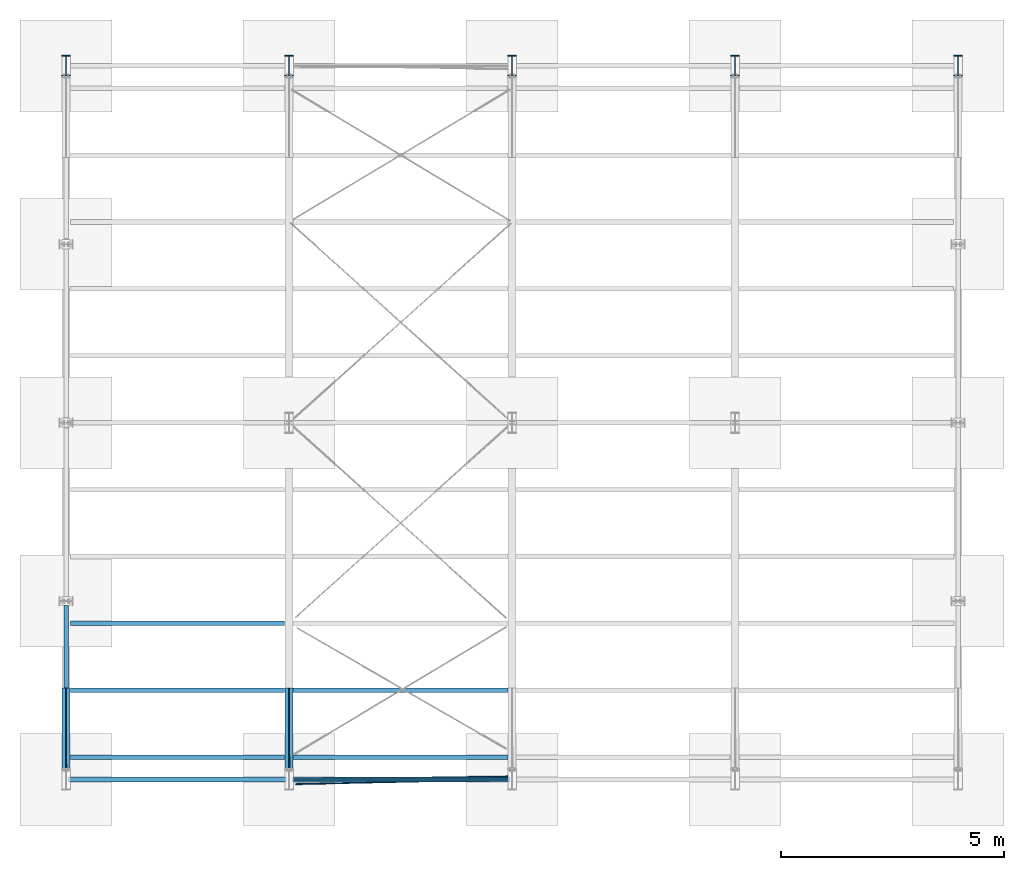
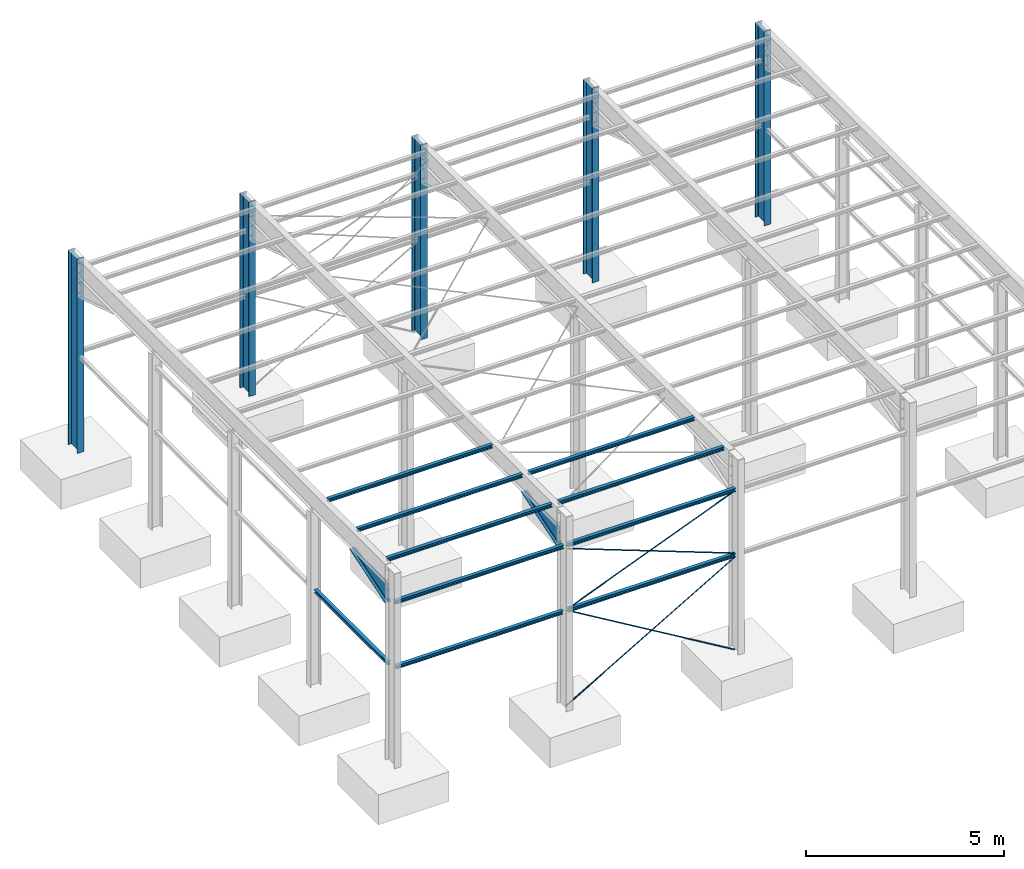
# Not in any storey, part 2 of 51: 10 beams, 6 members, 5 columns, 42 openings.
"""IFC4 model written with IfcOpenShell, lengths in feet."""

import ifcopenshell
import ifcopenshell.guid

model = None  # the IFC model being written
_history = None  # IfcOwnerHistory: only IFC2X3 demands one
_inside = {}  # id of a spatial element -> (the spatial element, [elements in it])
_under = {}  # id of a project, library or spatial element -> (it, [spatial elements below it])
_declared = {}  # id of a project -> (the project, [libraries it declares])
_typed = {}  # id of a type object -> (the type object, [elements of that type])
_made_of = {}  # id of a material, layer set ... -> (it, [elements and type objects made of it])


def new_model(schema):
    """Start an empty IFC model of exactly this schema.

    Asked for "IFC4X3", IfcOpenShell would pick the latest addendum, in which some entities
    have other attributes; the version numbers below select the first issue.
    IFC2X3 requires an IfcOwnerHistory on every rooted entity: one is made here for all.
    """
    global model, _history
    if schema == "IFC4X3":
        model = ifcopenshell.file(schema_version=(4, 3, 0, 0))
    else:
        model = ifcopenshell.file(schema=schema)
    _inside.clear()
    _under.clear()
    _declared.clear()
    _typed.clear()
    _made_of.clear()
    _history = None
    if model.schema == "IFC2X3":
        org = make("IfcOrganization", Name="unknown")
        user = make(
            "IfcPersonAndOrganization",
            ThePerson=make("IfcPerson", FamilyName="unknown"),
            TheOrganization=org,
        )
        app = make(
            "IfcApplication",
            ApplicationDeveloper=org,
            Version="unknown",
            ApplicationFullName="unknown",
            ApplicationIdentifier="unknown",
        )
        _history = make(
            "IfcOwnerHistory",
            OwningUser=user,
            OwningApplication=app,
            ChangeAction="ADDED",
            CreationDate=0,
        )
    return model


def make(cls, **values):
    """One entity of the class cls with the attributes given. An attribute that is None is left unset."""
    return model.create_entity(
        cls, **{name: value for name, value in values.items() if value is not None}
    )


def entity(cls, *values):
    """Any entity or typed value of the class cls, its attributes in the order of the schema. None: left unset."""
    e = model.create_entity(cls)
    for i, value in enumerate(values):
        if value is not None:
            e[i] = value
    return e


def rooted(cls, **values):
    """An entity with a GlobalId (a new one), such as an element, a storey or a relation."""
    return make(cls, GlobalId=ifcopenshell.guid.new(), OwnerHistory=_history, **values)


def si_unit(unit_type, name, prefix=None):
    """IfcSIUnit, for example si_unit("LENGTHUNIT", "METRE", prefix="MILLI")."""
    return make("IfcSIUnit", UnitType=unit_type, Prefix=prefix, Name=name)


def converted_unit(unit_type, name, factor, base, dimensions=None, offset=None):
    """IfcConversionBasedUnit, such as the inch: factor (a typed value) times the base unit."""
    return make(
        "IfcConversionBasedUnit"
        if offset is None
        else "IfcConversionBasedUnitWithOffset",
        ConversionOffset=offset,
        Dimensions=None
        if dimensions is None
        else entity("IfcDimensionalExponents", *dimensions),
        UnitType=unit_type,
        Name=name,
        ConversionFactor=make(
            "IfcMeasureWithUnit", ValueComponent=factor, UnitComponent=base
        ),
    )


def assignment(units):
    """IfcUnitAssignment: the units of a project."""
    return None if units is None else make("IfcUnitAssignment", Units=units)


def point(xyz):
    """IfcCartesianPoint."""
    return None if xyz is None else make("IfcCartesianPoint", Coordinates=xyz)


def direction(xyz):
    """IfcDirection."""
    return None if xyz is None else make("IfcDirection", DirectionRatios=xyz)


def frame(location, z_axis=None, x_axis=None):
    """IfcAxis2Placement3D, a coordinate frame: its origin and axes. An axis left out is left unset."""
    return make(
        "IfcAxis2Placement3D",
        Location=point(location),
        Axis=direction(z_axis),
        RefDirection=direction(x_axis),
    )


def frame_2d(location, x_axis=None):
    """IfcAxis2Placement2D, a coordinate frame in the plane: its origin and x axis."""
    return make(
        "IfcAxis2Placement2D", Location=point(location), RefDirection=direction(x_axis)
    )


def origin():
    """The frame at (0, 0, 0) with its axes left unset."""
    return frame((0.0, 0.0, 0.0))


def origin_2d():
    """The frame at (0, 0) in the plane with its x axis left unset."""
    return frame_2d((0.0, 0.0))


def origin_2d_with_axis():
    """The frame at (0, 0) in the plane with the x axis (1, 0) written out."""
    return frame_2d((0.0, 0.0), x_axis=(1.0, 0.0))


def place(relative_to, where):
    """IfcLocalPlacement: puts the frame where relative to a parent placement (None: the world)."""
    return make(
        "IfcLocalPlacement", PlacementRelTo=relative_to, RelativePlacement=where
    )


def context(
    kind, dimensions, precision=None, world=None, true_north=None, identifier=None
):
    """IfcGeometricRepresentationContext, for example the 3D "Model" context."""
    return make(
        "IfcGeometricRepresentationContext",
        ContextIdentifier=identifier,
        ContextType=kind,
        CoordinateSpaceDimension=dimensions,
        Precision=precision,
        WorldCoordinateSystem=world,
        TrueNorth=true_north,
    )


def project(units=None, contexts=None):
    """IfcProject with its units and contexts."""
    return rooted(
        "IfcProject",
        Name="project",
        RepresentationContexts=contexts,
        UnitsInContext=assignment(units),
    )


def spatial(cls, under=None, at=None, **own):
    """A site, building, storey or space (cls), placed at a placement, below another one or the project."""
    s = rooted(cls, ObjectPlacement=at, **own)
    if under is not None:
        _under.setdefault(under.id(), (under, []))[1].append(s)
    return s


def polyline(points):
    """IfcPolyline through the points."""
    return make("IfcPolyline", Points=[point(p) for p in points])


def profile(cls, at=None, kind="AREA", **sizes):
    """A parametric profile (cls). Its sizes go by their IFC names, for example OverallWidth=200.0."""
    return make(cls, ProfileType=kind, Position=at, **sizes)


def circle(**sizes):
    """IfcCircleProfileDef."""
    return profile("IfcCircleProfileDef", **sizes)


def i_section(**sizes):
    """IfcIShapeProfileDef."""
    return profile("IfcIShapeProfileDef", **sizes)


def outline(outer, holes=None, kind="AREA"):
    """IfcArbitraryClosedProfileDef: a profile drawn as a closed curve; with holes, ...WithVoids."""
    if holes is None:
        return make("IfcArbitraryClosedProfileDef", ProfileType=kind, OuterCurve=outer)
    return make(
        "IfcArbitraryProfileDefWithVoids",
        ProfileType=kind,
        OuterCurve=outer,
        InnerCurves=holes,
    )


def extrude(swept, where, along, depth):
    """IfcExtrudedAreaSolid: the profile swept, set in the frame where, extruded along a direction by depth."""
    return make(
        "IfcExtrudedAreaSolid",
        SweptArea=swept,
        Position=where,
        ExtrudedDirection=direction(along),
        Depth=depth,
    )


def clip(a, b, op="DIFFERENCE"):
    """IfcBooleanClippingResult: the solid a cut by the half space b."""
    return make(
        "IfcBooleanClippingResult", Operator=op, FirstOperand=a, SecondOperand=b
    )


def halfspace(plane, agree):
    """IfcHalfSpaceSolid: all space on one side of the plane z = 0 of the frame plane."""
    return make(
        "IfcHalfSpaceSolid",
        BaseSurface=make("IfcPlane", Position=plane),
        AgreementFlag=agree,
    )


def shape(context_of_items, identifier, shape_type, items):
    """IfcShapeRepresentation: the items that make up one representation, for example the "Body"."""
    return make(
        "IfcShapeRepresentation",
        ContextOfItems=context_of_items,
        RepresentationIdentifier=identifier,
        RepresentationType=shape_type,
        Items=items,
    )


def material(Name=None, Category=None):
    """IfcMaterial."""
    return make("IfcMaterial", Name=Name, Category=Category)


def made_of(thing, what):
    """Note that an element or type object is made of a material, layer set ...; save() writes the relation."""
    if what is not None:
        _made_of.setdefault(what.id(), (what, []))[1].append(thing)
    return thing


def type_object(cls, material=None, **own):
    """A type object (cls), such as IfcWallType, which elements share."""
    return made_of(rooted(cls, **own), material)


def element(
    cls,
    number,
    at=None,
    inside=None,
    cuts=None,
    type_object=None,
    material=None,
    context=None,
    identifier="Body",
    shape_type=None,
    held_by="IfcProductDefinitionShape",
    body=None,
    shapes=None,
    **own,
):
    """One element of the class cls, such as IfcWall. Its Tag is "e" and its number.

    at: its placement. inside: the storey or other place that contains it. cuts: it is an
    opening in that element (IfcRelVoidsElement). A single representation is given by context,
    identifier, shape_type and body (its items); several are given by shapes. held_by: the class
    of the entity that holds the representations. save() writes the other relations.
    """
    e = rooted(cls, Tag="e%d" % number, ObjectPlacement=at, **own)
    if body is not None:
        shapes = [shape(context, identifier, shape_type, body)]
    if shapes is not None:
        e.Representation = make(held_by, Representations=shapes)
    if inside is not None:
        _inside.setdefault(inside.id(), (inside, []))[1].append(e)
    if cuts is not None:
        rooted(
            "IfcRelVoidsElement", RelatingBuildingElement=cuts, RelatedOpeningElement=e
        )
    if type_object is not None:
        _typed.setdefault(type_object.id(), (type_object, []))[1].append(e)
    return made_of(e, material)


def aggregate(whole, parts):
    """IfcRelAggregates: a whole, such as a stair, and the parts it consists of."""
    return rooted("IfcRelAggregates", RelatingObject=whole, RelatedObjects=parts)


def save(model, path):
    """Write the relations noted so far, then the file.

    IfcRelAggregates (storeys below a building ...), IfcRelContainedInSpatialStructure (elements
    in a storey), IfcRelDefinesByType, IfcRelAssociatesMaterial and IfcRelDeclares: one each for
    every whole, place, type object, material and project.
    """
    for whole, parts in _under.values():
        aggregate(whole, parts)
    for where, things in _inside.values():
        rooted(
            "IfcRelContainedInSpatialStructure",
            RelatedElements=things,
            RelatingStructure=where,
        )
    for kind, things in _typed.values():
        rooted("IfcRelDefinesByType", RelatedObjects=things, RelatingType=kind)
    for what, things in _made_of.values():
        rooted("IfcRelAssociatesMaterial", RelatedObjects=things, RelatingMaterial=what)
    for by, libraries in _declared.values():
        rooted("IfcRelDeclares", RelatingContext=by, RelatedDefinitions=libraries)
    model.write(path)


model = new_model("IFC4")

# Units and contexts
model_context = context("Model", 3, precision=0.0001, world=origin(), true_north=direction((6.123233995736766e-17, 1.0)))
ifc_project = project(units=[converted_unit("LENGTHUNIT", "FOOT", entity("IfcLengthMeasure", 0.3048), si_unit("LENGTHUNIT", "METRE"), dimensions=[1, 0, 0, 0, 0, 0, 0]), converted_unit("AREAUNIT", "SQUARE INCH", entity("IfcAreaMeasure", 0.0006451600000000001), si_unit("AREAUNIT", "SQUARE_METRE"), dimensions=[2, 0, 0, 0, 0, 0, 0]), converted_unit("PLANEANGLEUNIT", "DEGREE", entity("IfcPlaneAngleMeasure", 0.017453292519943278), si_unit("PLANEANGLEUNIT", "RADIAN"), dimensions=[0, 0, 0, 0, 0, 0, 0]), si_unit("VOLUMEUNIT", "CUBIC_METRE")], contexts=[model_context])

# Site
site_placement = place(None, origin())
site = spatial("IfcSite", under=ifc_project, at=site_placement, Name="Default", CompositionType="ELEMENT")

# Column, openings
ifc_material_1 = material(Name="Steel ASTM A992", Category="Metal")
column_type = type_object("IfcColumnType", Name="W Shapes-Column:W18X65", PredefinedType="COLUMN", material=ifc_material_1)
column_1_placement = place(site_placement, frame((27.657936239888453, 57.94845552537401, 21.281038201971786), z_axis=(0.0, 0.0, 1.0), x_axis=(1.0, 0.0, 0.0)))
column_1 = element("IfcColumn", 1, at=column_1_placement, inside=site, type_object=column_type, material=ifc_material_1, Name="W Shapes-Column:W18X65", ObjectType="W18X65", context=model_context, shape_type="Clipping", body=[
    clip(extrude(i_section(OverallWidth=0.6325, OverallDepth=1.5333333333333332, WebThickness=0.0375, FlangeThickness=0.0625, FilletRadius=0.03333333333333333, at=origin_2d()), origin(), (0.0, 0.0, -1.0), 21.281038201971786), halfspace(frame((-27.657936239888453, -57.94845552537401, -1.6452147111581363), z_axis=(0.0, 0.0, -1.0), x_axis=(-1.0, 0.0, 0.0)), True)),
])
opening_1_placement = place(column_1_placement, frame((0.14583333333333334, -0.7025262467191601, -2.104529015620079), z_axis=(0.0, -1.0, 0.0), x_axis=(1.0, 0.0, 0.0)))
element("IfcOpeningElement", 2, at=opening_1_placement, cuts=column_1, ObjectType="Opening", context=model_context, shape_type="SweptSolid", body=[
    extrude(circle(Radius=0.03385744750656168, at=origin_2d_with_axis()), origin(), (0.0, 0.0, 1.0), 0.06578083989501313),
])
opening_2_placement = place(column_1_placement, frame((-0.14583333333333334, -0.7025262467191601, -4.073032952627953), z_axis=(0.0, -1.0, 0.0), x_axis=(1.0, 0.0, 0.0)))
element("IfcOpeningElement", 3, at=opening_2_placement, cuts=column_1, ObjectType="Opening", context=model_context, shape_type="SweptSolid", body=[
    extrude(circle(Radius=0.03385744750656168, at=origin_2d_with_axis()), origin(), (0.0, 0.0, 1.0), 0.06578083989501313),
])
opening_3_placement = place(column_1_placement, frame((-0.14583333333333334, -0.7025262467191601, -5.05728492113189), z_axis=(0.0, -1.0, 0.0), x_axis=(1.0, 0.0, 0.0)))
element("IfcOpeningElement", 4, at=opening_3_placement, cuts=column_1, ObjectType="Opening", context=model_context, shape_type="SweptSolid", body=[
    extrude(circle(Radius=0.03385744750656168, at=origin_2d_with_axis()), origin(), (0.0, 0.0, 1.0), 0.06578083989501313),
])
opening_4_placement = place(column_1_placement, frame((0.14583333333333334, -0.7025262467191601, -3.0887809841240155), z_axis=(0.0, -1.0, 0.0), x_axis=(1.0, 0.0, 0.0)))
element("IfcOpeningElement", 5, at=opening_4_placement, cuts=column_1, ObjectType="Opening", context=model_context, shape_type="SweptSolid", body=[
    extrude(circle(Radius=0.03385744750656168, at=origin_2d_with_axis()), origin(), (0.0, 0.0, 1.0), 0.06578083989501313),
])
opening_5_placement = place(column_1_placement, frame((0.14583333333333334, -0.7025262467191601, -5.05728492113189), z_axis=(0.0, -1.0, 0.0), x_axis=(1.0, 0.0, 0.0)))
element("IfcOpeningElement", 6, at=opening_5_placement, cuts=column_1, ObjectType="Opening", context=model_context, shape_type="SweptSolid", body=[
    extrude(circle(Radius=0.03385744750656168, at=origin_2d_with_axis()), origin(), (0.0, 0.0, 1.0), 0.06578083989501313),
])
opening_6_placement = place(column_1_placement, frame((-0.14583333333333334, -0.7025262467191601, -2.104529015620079), z_axis=(0.0, -1.0, 0.0), x_axis=(1.0, 0.0, 0.0)))
element("IfcOpeningElement", 7, at=opening_6_placement, cuts=column_1, ObjectType="Opening", context=model_context, shape_type="SweptSolid", body=[
    extrude(circle(Radius=0.03385744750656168, at=origin_2d_with_axis()), origin(), (0.0, 0.0, 1.0), 0.06578083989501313),
])
opening_7_placement = place(column_1_placement, frame((-0.14583333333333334, -0.7025262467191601, -3.0887809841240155), z_axis=(0.0, -1.0, 0.0), x_axis=(1.0, 0.0, 0.0)))
element("IfcOpeningElement", 8, at=opening_7_placement, cuts=column_1, ObjectType="Opening", context=model_context, shape_type="SweptSolid", body=[
    extrude(circle(Radius=0.03385744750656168, at=origin_2d_with_axis()), origin(), (0.0, 0.0, 1.0), 0.06578083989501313),
])
opening_8_placement = place(column_1_placement, frame((0.14583333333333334, -0.7025262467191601, -4.073032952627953), z_axis=(0.0, -1.0, 0.0), x_axis=(1.0, 0.0, 0.0)))
element("IfcOpeningElement", 9, at=opening_8_placement, cuts=column_1, ObjectType="Opening", context=model_context, shape_type="SweptSolid", body=[
    extrude(circle(Radius=0.03385744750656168, at=origin_2d_with_axis()), origin(), (0.0, 0.0, 1.0), 0.06578083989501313),
])

column_2_placement = place(site_placement, frame((44.06213571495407, 57.94845552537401, 21.281038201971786), z_axis=(0.0, 0.0, 1.0), x_axis=(1.0, 0.0, 0.0)))
column_2 = element("IfcColumn", 10, at=column_2_placement, inside=site, type_object=column_type, material=ifc_material_1, Name="W Shapes-Column:W18X65", ObjectType="W18X65", context=model_context, shape_type="Clipping", body=[
    clip(extrude(i_section(OverallWidth=0.6325, OverallDepth=1.5333333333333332, WebThickness=0.0375, FlangeThickness=0.0625, FilletRadius=0.03333333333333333, at=origin_2d()), origin(), (0.0, 0.0, -1.0), 21.281038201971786), halfspace(frame((-44.06213571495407, -57.94845552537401, -1.6452147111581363), z_axis=(0.0, 0.0, -1.0), x_axis=(-1.0, 0.0, 0.0)), True)),
])
opening_9_placement = place(column_2_placement, frame((-0.14583333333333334, -0.7025262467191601, -5.05728492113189), z_axis=(0.0, -1.0, 0.0), x_axis=(1.0, 0.0, 0.0)))
element("IfcOpeningElement", 11, at=opening_9_placement, cuts=column_2, ObjectType="Opening", context=model_context, shape_type="SweptSolid", body=[
    extrude(circle(Radius=0.03385744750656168, at=origin_2d_with_axis()), origin(), (0.0, 0.0, 1.0), 0.06578083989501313),
])
opening_10_placement = place(column_2_placement, frame((0.14583333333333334, -0.7025262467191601, -5.05728492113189), z_axis=(0.0, -1.0, 0.0), x_axis=(1.0, 0.0, 0.0)))
element("IfcOpeningElement", 12, at=opening_10_placement, cuts=column_2, ObjectType="Opening", context=model_context, shape_type="SweptSolid", body=[
    extrude(circle(Radius=0.03385744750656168, at=origin_2d_with_axis()), origin(), (0.0, 0.0, 1.0), 0.06578083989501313),
])
opening_11_placement = place(column_2_placement, frame((0.14583333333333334, -0.7025262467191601, -4.073032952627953), z_axis=(0.0, -1.0, 0.0), x_axis=(1.0, 0.0, 0.0)))
element("IfcOpeningElement", 13, at=opening_11_placement, cuts=column_2, ObjectType="Opening", context=model_context, shape_type="SweptSolid", body=[
    extrude(circle(Radius=0.03385744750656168, at=origin_2d_with_axis()), origin(), (0.0, 0.0, 1.0), 0.06578083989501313),
])
opening_12_placement = place(column_2_placement, frame((0.14583333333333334, -0.7025262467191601, -2.104529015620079), z_axis=(0.0, -1.0, 0.0), x_axis=(1.0, 0.0, 0.0)))
element("IfcOpeningElement", 14, at=opening_12_placement, cuts=column_2, ObjectType="Opening", context=model_context, shape_type="SweptSolid", body=[
    extrude(circle(Radius=0.03385744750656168, at=origin_2d_with_axis()), origin(), (0.0, 0.0, 1.0), 0.06578083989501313),
])
opening_13_placement = place(column_2_placement, frame((0.14583333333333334, -0.7025262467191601, -3.0887809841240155), z_axis=(0.0, -1.0, 0.0), x_axis=(1.0, 0.0, 0.0)))
element("IfcOpeningElement", 15, at=opening_13_placement, cuts=column_2, ObjectType="Opening", context=model_context, shape_type="SweptSolid", body=[
    extrude(circle(Radius=0.03385744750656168, at=origin_2d_with_axis()), origin(), (0.0, 0.0, 1.0), 0.06578083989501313),
])
opening_14_placement = place(column_2_placement, frame((-0.14583333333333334, -0.7025262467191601, -2.104529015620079), z_axis=(0.0, -1.0, 0.0), x_axis=(1.0, 0.0, 0.0)))
element("IfcOpeningElement", 16, at=opening_14_placement, cuts=column_2, ObjectType="Opening", context=model_context, shape_type="SweptSolid", body=[
    extrude(circle(Radius=0.03385744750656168, at=origin_2d_with_axis()), origin(), (0.0, 0.0, 1.0), 0.06578083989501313),
])
opening_15_placement = place(column_2_placement, frame((-0.14583333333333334, -0.7025262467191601, -4.073032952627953), z_axis=(0.0, -1.0, 0.0), x_axis=(1.0, 0.0, 0.0)))
element("IfcOpeningElement", 17, at=opening_15_placement, cuts=column_2, ObjectType="Opening", context=model_context, shape_type="SweptSolid", body=[
    extrude(circle(Radius=0.03385744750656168, at=origin_2d_with_axis()), origin(), (0.0, 0.0, 1.0), 0.06578083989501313),
])
opening_16_placement = place(column_2_placement, frame((-0.14583333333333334, -0.7025262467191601, -3.0887809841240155), z_axis=(0.0, -1.0, 0.0), x_axis=(1.0, 0.0, 0.0)))
element("IfcOpeningElement", 18, at=opening_16_placement, cuts=column_2, ObjectType="Opening", context=model_context, shape_type="SweptSolid", body=[
    extrude(circle(Radius=0.03385744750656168, at=origin_2d_with_axis()), origin(), (0.0, 0.0, 1.0), 0.06578083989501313),
])

column_3_placement = place(site_placement, frame((60.46633519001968, 57.94845552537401, 21.281038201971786), z_axis=(0.0, 0.0, 1.0), x_axis=(1.0, 0.0, 0.0)))
column_3 = element("IfcColumn", 19, at=column_3_placement, inside=site, type_object=column_type, material=ifc_material_1, Name="W Shapes-Column:W18X65", ObjectType="W18X65", context=model_context, shape_type="Clipping", body=[
    clip(extrude(i_section(OverallWidth=0.6325, OverallDepth=1.5333333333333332, WebThickness=0.0375, FlangeThickness=0.0625, FilletRadius=0.03333333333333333, at=origin_2d()), origin(), (0.0, 0.0, -1.0), 21.281038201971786), halfspace(frame((-60.46633519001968, -57.94845552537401, -1.6452147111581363), z_axis=(0.0, 0.0, -1.0), x_axis=(-1.0, 0.0, 0.0)), True)),
])
opening_17_placement = place(column_3_placement, frame((-0.14583333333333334, -0.7025262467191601, -2.104529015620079), z_axis=(0.0, -1.0, 0.0), x_axis=(1.0, 0.0, 0.0)))
element("IfcOpeningElement", 20, at=opening_17_placement, cuts=column_3, ObjectType="Opening", context=model_context, shape_type="SweptSolid", body=[
    extrude(circle(Radius=0.03385744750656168, at=origin_2d_with_axis()), origin(), (0.0, 0.0, 1.0), 0.06578083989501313),
])
opening_18_placement = place(column_3_placement, frame((0.14583333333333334, -0.7025262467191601, -3.0887809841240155), z_axis=(0.0, -1.0, 0.0), x_axis=(1.0, 0.0, 0.0)))
element("IfcOpeningElement", 21, at=opening_18_placement, cuts=column_3, ObjectType="Opening", context=model_context, shape_type="SweptSolid", body=[
    extrude(circle(Radius=0.03385744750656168, at=origin_2d_with_axis()), origin(), (0.0, 0.0, 1.0), 0.06578083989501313),
])
opening_19_placement = place(column_3_placement, frame((-0.14583333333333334, -0.7025262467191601, -3.0887809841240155), z_axis=(0.0, -1.0, 0.0), x_axis=(1.0, 0.0, 0.0)))
element("IfcOpeningElement", 22, at=opening_19_placement, cuts=column_3, ObjectType="Opening", context=model_context, shape_type="SweptSolid", body=[
    extrude(circle(Radius=0.03385744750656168, at=origin_2d_with_axis()), origin(), (0.0, 0.0, 1.0), 0.06578083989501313),
])
opening_20_placement = place(column_3_placement, frame((0.14583333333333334, -0.7025262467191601, -4.073032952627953), z_axis=(0.0, -1.0, 0.0), x_axis=(1.0, 0.0, 0.0)))
element("IfcOpeningElement", 23, at=opening_20_placement, cuts=column_3, ObjectType="Opening", context=model_context, shape_type="SweptSolid", body=[
    extrude(circle(Radius=0.03385744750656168, at=origin_2d_with_axis()), origin(), (0.0, 0.0, 1.0), 0.06578083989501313),
])
opening_21_placement = place(column_3_placement, frame((0.14583333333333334, -0.7025262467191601, -5.05728492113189), z_axis=(0.0, -1.0, 0.0), x_axis=(1.0, 0.0, 0.0)))
element("IfcOpeningElement", 24, at=opening_21_placement, cuts=column_3, ObjectType="Opening", context=model_context, shape_type="SweptSolid", body=[
    extrude(circle(Radius=0.03385744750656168, at=origin_2d_with_axis()), origin(), (0.0, 0.0, 1.0), 0.06578083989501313),
])
opening_22_placement = place(column_3_placement, frame((-0.14583333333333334, -0.7025262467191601, -4.073032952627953), z_axis=(0.0, -1.0, 0.0), x_axis=(1.0, 0.0, 0.0)))
element("IfcOpeningElement", 25, at=opening_22_placement, cuts=column_3, ObjectType="Opening", context=model_context, shape_type="SweptSolid", body=[
    extrude(circle(Radius=0.03385744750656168, at=origin_2d_with_axis()), origin(), (0.0, 0.0, 1.0), 0.06578083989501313),
])
opening_23_placement = place(column_3_placement, frame((-0.14583333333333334, -0.7025262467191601, -5.05728492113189), z_axis=(0.0, -1.0, 0.0), x_axis=(1.0, 0.0, 0.0)))
element("IfcOpeningElement", 26, at=opening_23_placement, cuts=column_3, ObjectType="Opening", context=model_context, shape_type="SweptSolid", body=[
    extrude(circle(Radius=0.03385744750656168, at=origin_2d_with_axis()), origin(), (0.0, 0.0, 1.0), 0.06578083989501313),
])
opening_24_placement = place(column_3_placement, frame((0.14583333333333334, -0.7025262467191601, -2.104529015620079), z_axis=(0.0, -1.0, 0.0), x_axis=(1.0, 0.0, 0.0)))
element("IfcOpeningElement", 27, at=opening_24_placement, cuts=column_3, ObjectType="Opening", context=model_context, shape_type="SweptSolid", body=[
    extrude(circle(Radius=0.03385744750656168, at=origin_2d_with_axis()), origin(), (0.0, 0.0, 1.0), 0.06578083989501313),
])

column_4_placement = place(site_placement, frame((76.87053466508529, 57.94845552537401, 21.281038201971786), z_axis=(0.0, 0.0, 1.0), x_axis=(1.0, 0.0, 0.0)))
column_4 = element("IfcColumn", 28, at=column_4_placement, inside=site, type_object=column_type, material=ifc_material_1, Name="W Shapes-Column:W18X65", ObjectType="W18X65", context=model_context, shape_type="Clipping", body=[
    clip(extrude(i_section(OverallWidth=0.6325, OverallDepth=1.5333333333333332, WebThickness=0.0375, FlangeThickness=0.0625, FilletRadius=0.03333333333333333, at=origin_2d()), origin(), (0.0, 0.0, -1.0), 21.281038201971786), halfspace(frame((-76.87053466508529, -57.94845552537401, -1.6452147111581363), z_axis=(0.0, 0.0, -1.0), x_axis=(-1.0, 0.0, 0.0)), True)),
])
opening_25_placement = place(column_4_placement, frame((-0.14583333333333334, -0.7025262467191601, -4.073032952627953), z_axis=(0.0, -1.0, 0.0), x_axis=(1.0, 0.0, 0.0)))
element("IfcOpeningElement", 29, at=opening_25_placement, cuts=column_4, ObjectType="Opening", context=model_context, shape_type="SweptSolid", body=[
    extrude(circle(Radius=0.03385744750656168, at=origin_2d_with_axis()), origin(), (0.0, 0.0, 1.0), 0.06578083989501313),
])
opening_26_placement = place(column_4_placement, frame((0.14583333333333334, -0.7025262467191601, -3.0887809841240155), z_axis=(0.0, -1.0, 0.0), x_axis=(1.0, 0.0, 0.0)))
element("IfcOpeningElement", 30, at=opening_26_placement, cuts=column_4, ObjectType="Opening", context=model_context, shape_type="SweptSolid", body=[
    extrude(circle(Radius=0.03385744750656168, at=origin_2d_with_axis()), origin(), (0.0, 0.0, 1.0), 0.06578083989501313),
])
opening_27_placement = place(column_4_placement, frame((-0.14583333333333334, -0.7025262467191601, -2.104529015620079), z_axis=(0.0, -1.0, 0.0), x_axis=(1.0, 0.0, 0.0)))
element("IfcOpeningElement", 31, at=opening_27_placement, cuts=column_4, ObjectType="Opening", context=model_context, shape_type="SweptSolid", body=[
    extrude(circle(Radius=0.03385744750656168, at=origin_2d_with_axis()), origin(), (0.0, 0.0, 1.0), 0.06578083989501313),
])
opening_28_placement = place(column_4_placement, frame((-0.14583333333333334, -0.7025262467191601, -3.0887809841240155), z_axis=(0.0, -1.0, 0.0), x_axis=(1.0, 0.0, 0.0)))
element("IfcOpeningElement", 32, at=opening_28_placement, cuts=column_4, ObjectType="Opening", context=model_context, shape_type="SweptSolid", body=[
    extrude(circle(Radius=0.03385744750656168, at=origin_2d_with_axis()), origin(), (0.0, 0.0, 1.0), 0.06578083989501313),
])
opening_29_placement = place(column_4_placement, frame((-0.14583333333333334, -0.7025262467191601, -5.05728492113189), z_axis=(0.0, -1.0, 0.0), x_axis=(1.0, 0.0, 0.0)))
element("IfcOpeningElement", 33, at=opening_29_placement, cuts=column_4, ObjectType="Opening", context=model_context, shape_type="SweptSolid", body=[
    extrude(circle(Radius=0.03385744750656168, at=origin_2d_with_axis()), origin(), (0.0, 0.0, 1.0), 0.06578083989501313),
])
opening_30_placement = place(column_4_placement, frame((0.14583333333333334, -0.7025262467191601, -4.073032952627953), z_axis=(0.0, -1.0, 0.0), x_axis=(1.0, 0.0, 0.0)))
element("IfcOpeningElement", 34, at=opening_30_placement, cuts=column_4, ObjectType="Opening", context=model_context, shape_type="SweptSolid", body=[
    extrude(circle(Radius=0.03385744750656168, at=origin_2d_with_axis()), origin(), (0.0, 0.0, 1.0), 0.06578083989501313),
])
opening_31_placement = place(column_4_placement, frame((0.14583333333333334, -0.7025262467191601, -2.104529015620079), z_axis=(0.0, -1.0, 0.0), x_axis=(1.0, 0.0, 0.0)))
element("IfcOpeningElement", 35, at=opening_31_placement, cuts=column_4, ObjectType="Opening", context=model_context, shape_type="SweptSolid", body=[
    extrude(circle(Radius=0.03385744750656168, at=origin_2d_with_axis()), origin(), (0.0, 0.0, 1.0), 0.06578083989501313),
])
opening_32_placement = place(column_4_placement, frame((0.14583333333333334, -0.7025262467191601, -5.05728492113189), z_axis=(0.0, -1.0, 0.0), x_axis=(1.0, 0.0, 0.0)))
element("IfcOpeningElement", 36, at=opening_32_placement, cuts=column_4, ObjectType="Opening", context=model_context, shape_type="SweptSolid", body=[
    extrude(circle(Radius=0.03385744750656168, at=origin_2d_with_axis()), origin(), (0.0, 0.0, 1.0), 0.06578083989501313),
])

column_5_placement = place(site_placement, frame((11.253736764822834, 57.94845552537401, 21.281038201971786), z_axis=(0.0, 0.0, 1.0), x_axis=(1.0, 0.0, 0.0)))
column_5 = element("IfcColumn", 37, at=column_5_placement, inside=site, type_object=column_type, material=ifc_material_1, Name="W Shapes-Column:W18X65", ObjectType="W18X65", context=model_context, shape_type="Clipping", body=[
    clip(extrude(i_section(OverallWidth=0.6325, OverallDepth=1.5333333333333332, WebThickness=0.0375, FlangeThickness=0.0625, FilletRadius=0.03333333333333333, at=origin_2d()), origin(), (0.0, 0.0, -1.0), 21.281038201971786), halfspace(frame((-11.253736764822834, -57.94845552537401, -1.6452147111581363), z_axis=(0.0, 0.0, -1.0), x_axis=(-1.0, 0.0, 0.0)), True)),
])
opening_33_placement = place(column_5_placement, frame((0.14583333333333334, -0.7025262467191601, -4.073032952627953), z_axis=(0.0, -1.0, 0.0), x_axis=(1.0, 0.0, 0.0)))
element("IfcOpeningElement", 38, at=opening_33_placement, cuts=column_5, ObjectType="Opening", context=model_context, shape_type="SweptSolid", body=[
    extrude(circle(Radius=0.03385744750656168, at=origin_2d_with_axis()), origin(), (0.0, 0.0, 1.0), 0.06578083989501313),
])
opening_34_placement = place(column_5_placement, frame((0.14583333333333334, -0.7025262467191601, -3.0887809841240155), z_axis=(0.0, -1.0, 0.0), x_axis=(1.0, 0.0, 0.0)))
element("IfcOpeningElement", 39, at=opening_34_placement, cuts=column_5, ObjectType="Opening", context=model_context, shape_type="SweptSolid", body=[
    extrude(circle(Radius=0.03385744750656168, at=origin_2d_with_axis()), origin(), (0.0, 0.0, 1.0), 0.06578083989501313),
])
opening_35_placement = place(column_5_placement, frame((0.14583333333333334, -0.7025262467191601, -2.104529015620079), z_axis=(0.0, -1.0, 0.0), x_axis=(1.0, 0.0, 0.0)))
element("IfcOpeningElement", 40, at=opening_35_placement, cuts=column_5, ObjectType="Opening", context=model_context, shape_type="SweptSolid", body=[
    extrude(circle(Radius=0.03385744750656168, at=origin_2d_with_axis()), origin(), (0.0, 0.0, 1.0), 0.06578083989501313),
])
opening_36_placement = place(column_5_placement, frame((-0.14583333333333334, -0.7025262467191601, -2.104529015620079), z_axis=(0.0, -1.0, 0.0), x_axis=(1.0, 0.0, 0.0)))
element("IfcOpeningElement", 41, at=opening_36_placement, cuts=column_5, ObjectType="Opening", context=model_context, shape_type="SweptSolid", body=[
    extrude(circle(Radius=0.03385744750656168, at=origin_2d_with_axis()), origin(), (0.0, 0.0, 1.0), 0.06578083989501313),
])
opening_37_placement = place(column_5_placement, frame((-0.14583333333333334, -0.7025262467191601, -3.0887809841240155), z_axis=(0.0, -1.0, 0.0), x_axis=(1.0, 0.0, 0.0)))
element("IfcOpeningElement", 42, at=opening_37_placement, cuts=column_5, ObjectType="Opening", context=model_context, shape_type="SweptSolid", body=[
    extrude(circle(Radius=0.03385744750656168, at=origin_2d_with_axis()), origin(), (0.0, 0.0, 1.0), 0.06578083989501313),
])
opening_38_placement = place(column_5_placement, frame((-0.14583333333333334, -0.7025262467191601, -4.073032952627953), z_axis=(0.0, -1.0, 0.0), x_axis=(1.0, 0.0, 0.0)))
element("IfcOpeningElement", 43, at=opening_38_placement, cuts=column_5, ObjectType="Opening", context=model_context, shape_type="SweptSolid", body=[
    extrude(circle(Radius=0.03385744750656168, at=origin_2d_with_axis()), origin(), (0.0, 0.0, 1.0), 0.06578083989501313),
])
opening_39_placement = place(column_5_placement, frame((-0.14583333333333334, -0.7025262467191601, -5.05728492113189), z_axis=(0.0, -1.0, 0.0), x_axis=(1.0, 0.0, 0.0)))
element("IfcOpeningElement", 44, at=opening_39_placement, cuts=column_5, ObjectType="Opening", context=model_context, shape_type="SweptSolid", body=[
    extrude(circle(Radius=0.03385744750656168, at=origin_2d_with_axis()), origin(), (0.0, 0.0, 1.0), 0.06578083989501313),
])
opening_40_placement = place(column_5_placement, frame((0.14583333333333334, -0.7025262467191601, -5.05728492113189), z_axis=(0.0, -1.0, 0.0), x_axis=(1.0, 0.0, 0.0)))
element("IfcOpeningElement", 45, at=opening_40_placement, cuts=column_5, ObjectType="Opening", context=model_context, shape_type="SweptSolid", body=[
    extrude(circle(Radius=0.03385744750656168, at=origin_2d_with_axis()), origin(), (0.0, 0.0, 1.0), 0.06578083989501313),
])

# Beams
beam_type = type_object("IfcBeamType", Name="W Shapes:W4X13", PredefinedType="BEAM")
beam_1_placement = place(site_placement, frame((11.491269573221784, 5.455017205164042, 9.669186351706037), z_axis=(-1.0, 0.0, 0.0), x_axis=(0.0, -1.0, 0.0)))
element("IfcBeam", 46, at=beam_1_placement, inside=site, type_object=beam_type, material=ifc_material_1, Name="W Shapes:W4X13", ObjectType="W4X13", context=model_context, shape_type="SweptSolid", body=[
    extrude(i_section(OverallWidth=0.3383333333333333, OverallDepth=0.3466666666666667, WebThickness=0.023333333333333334, FlangeThickness=0.028749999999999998, FilletRadius=0.020833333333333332, at=origin_2d()), origin(), (0.0, 0.0, -1.0), 15.916666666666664),
])
beam_2_placement = place(site_placement, frame((27.8954690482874, 5.455017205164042, 9.669186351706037), z_axis=(-1.0, 0.0, 0.0), x_axis=(0.0, -1.0, 0.0)))
element("IfcBeam", 47, at=beam_2_placement, inside=site, type_object=beam_type, material=ifc_material_1, Name="W Shapes:W4X13", ObjectType="W4X13", context=model_context, shape_type="SweptSolid", body=[
    extrude(i_section(OverallWidth=0.3383333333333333, OverallDepth=0.3466666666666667, WebThickness=0.023333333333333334, FlangeThickness=0.028749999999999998, FilletRadius=0.020833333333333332, at=origin_2d()), origin(), (0.0, 0.0, -1.0), 16.0),
])
beam_3_placement = place(site_placement, frame((11.253736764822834, 18.26751720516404, 9.669186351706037), z_axis=(0.0, 1.0, 0.0), x_axis=(-1.0, 0.0, 0.0)))
element("IfcBeam", 48, at=beam_3_placement, inside=site, type_object=beam_type, material=ifc_material_1, Name="W Shapes:W4X13", ObjectType="W4X13", context=model_context, shape_type="SweptSolid", body=[
    extrude(i_section(OverallWidth=0.3383333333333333, OverallDepth=0.3466666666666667, WebThickness=0.023333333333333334, FlangeThickness=0.028749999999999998, FilletRadius=0.020833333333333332, at=origin_2d()), origin(), (0.0, 0.0, -1.0), 12.083333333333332),
])
beam_4_placement = place(site_placement, frame((11.39580618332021, 5.455017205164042, 16.261706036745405), z_axis=(-1.0, 0.0, 0.0), x_axis=(0.0, -1.0, 0.0)))
element("IfcBeam", 49, at=beam_4_placement, inside=site, type_object=beam_type, material=ifc_material_1, Name="W Shapes:W4X13", ObjectType="W4X13", context=model_context, shape_type="SweptSolid", body=[
    extrude(i_section(OverallWidth=0.3383333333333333, OverallDepth=0.3466666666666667, WebThickness=0.023333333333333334, FlangeThickness=0.028749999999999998, FilletRadius=0.020833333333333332, at=origin_2d()), origin(), (0.0, 0.0, -1.0), 16.085031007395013),
])
beam_5_placement = place(site_placement, frame((27.87547994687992, 5.455017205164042, 16.261706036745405), z_axis=(-1.0, 0.0, 0.0), x_axis=(0.0, -1.0, 0.0)))
element("IfcBeam", 50, at=beam_5_placement, inside=site, type_object=beam_type, material=ifc_material_1, Name="W Shapes:W4X13", ObjectType="W4X13", context=model_context, shape_type="SweptSolid", body=[
    extrude(i_section(OverallWidth=0.3383333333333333, OverallDepth=0.3466666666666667, WebThickness=0.023333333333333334, FlangeThickness=0.028749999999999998, FilletRadius=0.020833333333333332, at=origin_2d()), origin(), (0.0, 0.0, -1.0), 16.041666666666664),
])
beam_6_placement = place(site_placement, frame((11.587070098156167, 7.095437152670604, 19.511706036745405), z_axis=(-1.0, 0.0, 0.0), x_axis=(0.0, -1.0, 0.0)))
element("IfcBeam", 51, at=beam_6_placement, inside=site, type_object=beam_type, material=ifc_material_1, Name="W Shapes:W4X13", ObjectType="W4X13", context=model_context, shape_type="SweptSolid", body=[
    extrude(i_section(OverallWidth=0.3383333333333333, OverallDepth=0.3466666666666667, WebThickness=0.023333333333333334, FlangeThickness=0.028749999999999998, FilletRadius=0.020833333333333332, at=origin_2d()), origin(), (0.0, 0.0, -1.0), 15.75),
])
beam_7_placement = place(site_placement, frame((27.93713571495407, 7.095437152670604, 19.511706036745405), z_axis=(-1.0, 0.0, 0.0), x_axis=(0.0, -1.0, 0.0)))
element("IfcBeam", 52, at=beam_7_placement, inside=site, type_object=beam_type, material=ifc_material_1, Name="W Shapes:W4X13", ObjectType="W4X13", context=model_context, shape_type="SweptSolid", body=[
    extrude(i_section(OverallWidth=0.3383333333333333, OverallDepth=0.3466666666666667, WebThickness=0.023333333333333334, FlangeThickness=0.028749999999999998, FilletRadius=0.020833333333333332, at=origin_2d()), origin(), (0.0, 0.0, -1.0), 15.833333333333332),
])
beam_8_placement = place(site_placement, frame((11.587070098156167, 12.016696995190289, 19.511706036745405), z_axis=(-1.0, 0.0, 0.0), x_axis=(0.0, -1.0, 0.0)))
element("IfcBeam", 53, at=beam_8_placement, inside=site, type_object=beam_type, material=ifc_material_1, Name="W Shapes:W4X13", ObjectType="W4X13", context=model_context, shape_type="SweptSolid", body=[
    extrude(i_section(OverallWidth=0.3383333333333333, OverallDepth=0.3466666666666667, WebThickness=0.023333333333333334, FlangeThickness=0.028749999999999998, FilletRadius=0.020833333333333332, at=origin_2d()), origin(), (0.0, 0.0, -1.0), 15.75),
])
beam_9_placement = place(site_placement, frame((27.93713571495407, 12.016696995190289, 19.511706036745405), z_axis=(-1.0, 0.0, 0.0), x_axis=(0.0, -1.0, 0.0)))
element("IfcBeam", 54, at=beam_9_placement, inside=site, type_object=beam_type, material=ifc_material_1, Name="W Shapes:W4X13", ObjectType="W4X13", context=model_context, shape_type="SweptSolid", body=[
    extrude(i_section(OverallWidth=0.3383333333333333, OverallDepth=0.3466666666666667, WebThickness=0.023333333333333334, FlangeThickness=0.028749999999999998, FilletRadius=0.020833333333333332, at=origin_2d()), origin(), (0.0, 0.0, -1.0), 15.833333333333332),
])
beam_10_placement = place(site_placement, frame((11.587070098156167, 16.937956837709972, 19.511706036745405), z_axis=(-1.0, 0.0, 0.0), x_axis=(0.0, -1.0, 0.0)))
element("IfcBeam", 55, at=beam_10_placement, inside=site, type_object=beam_type, material=ifc_material_1, Name="W Shapes:W4X13", ObjectType="W4X13", context=model_context, shape_type="SweptSolid", body=[
    extrude(i_section(OverallWidth=0.3383333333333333, OverallDepth=0.3466666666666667, WebThickness=0.023333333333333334, FlangeThickness=0.028749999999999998, FilletRadius=0.020833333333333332, at=origin_2d()), origin(), (0.0, 0.0, -1.0), 15.75),
])

# Members
ifc_material_2 = material(Name="Steel ASTM A36", Category="Metal")
member_type_1 = type_object("IfcMemberType", Name="Round Bars:RB 1", PredefinedType="MEMBER", material=ifc_material_2)
member_1_placement = place(site_placement, frame((27.783677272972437, 5.45529872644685, 0.025669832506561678), z_axis=(-0.869678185, -0.011908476, -0.493475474), x_axis=(0.013691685, -0.999906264, 0.0)))
element("IfcMember", 56, at=member_1_placement, inside=site, type_object=member_type_1, material=ifc_material_2, Name="Round Bars:RB 1", ObjectType="RB 1", context=model_context, shape_type="SweptSolid", body=[
    extrude(circle(Radius=0.041666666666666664, at=origin_2d()), origin(), (0.0, 0.0, -1.0), 18.666666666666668),
])
member_type_2 = type_object("IfcMemberType", Name="Round Bars:RB 1", PredefinedType="MEMBER", material=ifc_material_2)
member_2_placement = place(site_placement, frame((43.855684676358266, 5.454554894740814, 0.07495027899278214), z_axis=(0.854612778, 0.0182765, -0.51894409), x_axis=(-0.02138082, 0.999771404, 0.0)))
element("IfcMember", 57, at=member_2_placement, inside=site, type_object=member_type_2, material=ifc_material_2, Name="Round Bars:RB 1", ObjectType="RB 1", context=model_context, shape_type="SweptSolid", body=[
    extrude(circle(Radius=0.041666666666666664, at=origin_2d()), origin(), (0.0, 0.0, -1.0), 18.354166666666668),
])
member_type_3 = type_object("IfcMemberType", Name="Round Bars:RB 1", PredefinedType="MEMBER", material=ifc_material_2)
member_3_placement = place(site_placement, frame((43.756816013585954, 5.455017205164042, 9.84251968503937), z_axis=(0.935028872, 0.0, -0.354571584), x_axis=(0.0, 1.0, 0.0)))
element("IfcMember", 58, at=member_3_placement, inside=site, type_object=member_type_3, material=ifc_material_2, Name="Round Bars:RB 1", ObjectType="RB 1", context=model_context, shape_type="SweptSolid", body=[
    extrude(circle(Radius=0.041666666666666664, at=origin_2d()), origin(), (0.0, 0.0, -1.0), 16.962815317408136),
])
member_type_4 = type_object("IfcMemberType", Name="Round Bars:RB 1", PredefinedType="MEMBER", material=ifc_material_2)
member_4_placement = place(site_placement, frame((27.8880083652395, 5.455017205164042, 9.75027130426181), z_axis=(-0.929254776, 0.0, -0.369439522), x_axis=(0.0, -1.0, 0.0)))
element("IfcMember", 59, at=member_4_placement, inside=site, type_object=member_type_4, material=ifc_material_2, Name="Round Bars:RB 1", ObjectType="RB 1", context=model_context, shape_type="SweptSolid", body=[
    extrude(circle(Radius=0.041666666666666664, at=origin_2d()), origin(), (0.0, 0.0, -1.0), 17.0),
])

# Member, opening
member_5_placement = place(site_placement, frame((11.253736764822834, 2.995613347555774, 15.74704584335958), z_axis=(0.0, -0.952577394, -0.304296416), x_axis=(1.0, 0.0, 0.0)))
member_5 = element("IfcMember", 60, at=member_5_placement, inside=site, Name="Haunch", ObjectType="Haunch", context=model_context, shape_type="Clipping", body=[
    clip(clip(clip(extrude(i_section(OverallWidth=0.5841666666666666, OverallDepth=1.9666666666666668, WebThickness=0.032916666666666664, FlangeThickness=0.042083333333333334, FilletRadius=0.042083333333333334, at=origin_2d()), origin(), (0.0, 0.0, -1.0), 19.390601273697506), halfspace(frame((-11.253736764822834, -16.00192954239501, 1.6561795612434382), z_axis=(0.0, -0.304296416, -0.952577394), x_axis=(-1.0, 0.0, 0.0)), True)), halfspace(frame((-11.253736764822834, 2.789392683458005, 2.253686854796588), z_axis=(0.0, -0.952577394, 0.304296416), x_axis=(-1.0, 0.0, 0.0)), True)), halfspace(frame((-11.253736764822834, -17.79895362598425, -3.96927123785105), z_axis=(0.0, 0.304296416, 0.952577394), x_axis=(1.0, 0.0, 0.0)), True)),
])
opening_41_placement = place(member_5_placement, frame((0.6204954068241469, -0.9833333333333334, -3.141437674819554), z_axis=(-1.0, 0.0, 0.0), x_axis=(0.0, 0.304296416, 0.952577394)))
element("IfcOpeningElement", 61, at=opening_41_placement, cuts=member_5, ObjectType="Opening", context=model_context, shape_type="SweptSolid", body=[
    extrude(outline(polyline([(3.2808398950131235e-06, 1.9521030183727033), (-0.0625079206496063, 1.9521030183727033), (3.2808398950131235e-06, 1.889591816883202), (3.2808398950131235e-06, 1.9521030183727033)])), origin(), (0.0, 0.0, 1.0), 1.2409908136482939),
])

member_6_placement = place(site_placement, frame((27.657936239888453, 2.995613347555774, 15.74704584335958), z_axis=(0.0, -0.952577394, -0.304296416), x_axis=(1.0, 0.0, 0.0)))
member_6 = element("IfcMember", 62, at=member_6_placement, inside=site, Name="Haunch", ObjectType="Haunch", context=model_context, shape_type="Clipping", body=[
    clip(clip(clip(extrude(i_section(OverallWidth=0.5841666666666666, OverallDepth=1.9666666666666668, WebThickness=0.032916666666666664, FlangeThickness=0.042083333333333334, FilletRadius=0.042083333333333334, at=origin_2d()), origin(), (0.0, 0.0, -1.0), 19.390601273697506), halfspace(frame((-27.657936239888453, -16.00192954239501, 1.6561795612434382), z_axis=(0.0, -0.304296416, -0.952577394), x_axis=(-1.0, 0.0, 0.0)), True)), halfspace(frame((-27.657936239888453, 2.789392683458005, 2.253686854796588), z_axis=(0.0, -0.952577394, 0.304296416), x_axis=(-1.0, 0.0, 0.0)), True)), halfspace(frame((-27.657936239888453, -17.79895362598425, -3.96927123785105), z_axis=(0.0, 0.304296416, 0.952577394), x_axis=(1.0, 0.0, 0.0)), True)),
])
opening_42_placement = place(member_6_placement, frame((0.6204954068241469, -0.9833333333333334, -3.141437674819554), z_axis=(-1.0, 0.0, 0.0), x_axis=(0.0, 0.304296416, 0.952577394)))
element("IfcOpeningElement", 63, at=opening_42_placement, cuts=member_6, ObjectType="Opening", context=model_context, shape_type="SweptSolid", body=[
    extrude(outline(polyline([(3.2808398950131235e-06, 1.9521030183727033), (-0.0625079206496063, 1.9521030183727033), (3.2808398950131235e-06, 1.889591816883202), (3.2808398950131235e-06, 1.9521030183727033)])), origin(), (0.0, 0.0, 1.0), 1.2409908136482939),
])

save(model, "model.ifc")
